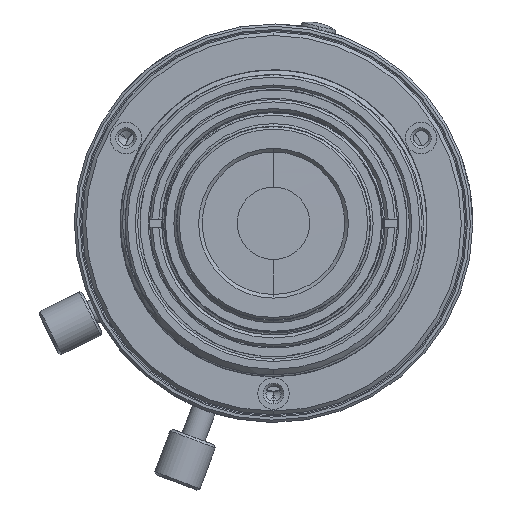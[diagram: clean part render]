
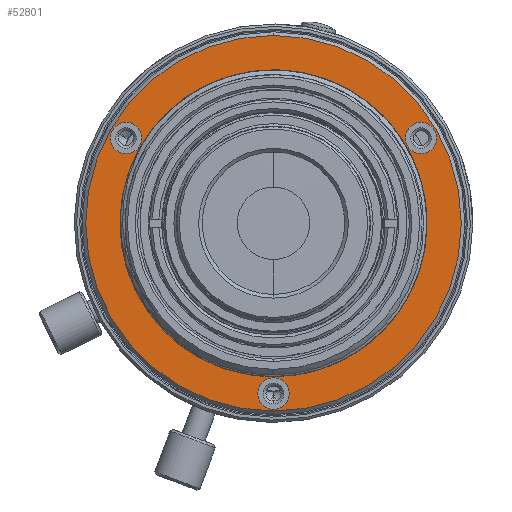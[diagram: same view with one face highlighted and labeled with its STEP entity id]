
A CAD part, front view. The second image highlights one B-rep face of the part: STEP entity #52801.
In plain terms, the highlighted planar face has unit normal (0, -1, 0).
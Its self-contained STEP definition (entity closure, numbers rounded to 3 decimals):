
#51463=CARTESIAN_POINT('',(0.,-2.674,0.));
#51464=DIRECTION('',(0.,1.,0.));
#51465=DIRECTION('',(0.,0.,-1.));
#51466=AXIS2_PLACEMENT_3D('',#51463,#51464,#51465);
#51468=CARTESIAN_POINT('',(0.,-2.674,0.));
#51469=DIRECTION('',(0.,-1.,0.));
#51470=DIRECTION('',(0.,0.,-1.));
#51471=AXIS2_PLACEMENT_3D('',#51468,#51469,#51470);
#51473=CARTESIAN_POINT('',(0.,-2.674,0.));
#51474=DIRECTION('',(0.,1.,0.));
#51475=DIRECTION('',(0.,0.,-1.));
#51476=AXIS2_PLACEMENT_3D('',#51473,#51474,#51475);
#51478=CARTESIAN_POINT('',(0.,-2.674,0.));
#51479=DIRECTION('',(0.,1.,0.));
#51480=DIRECTION('',(0.,0.,1.));
#51481=AXIS2_PLACEMENT_3D('',#51478,#51479,#51480);
#51483=CARTESIAN_POINT('',(0.,-2.674,-14.1));
#51484=DIRECTION('',(0.,-1.,0.));
#51485=DIRECTION('',(0.,0.,-1.));
#51486=AXIS2_PLACEMENT_3D('',#51483,#51484,#51485);
#51488=CARTESIAN_POINT('',(0.,-2.674,-14.1));
#51489=DIRECTION('',(0.,-1.,0.));
#51490=DIRECTION('',(0.,0.,1.));
#51491=AXIS2_PLACEMENT_3D('',#51488,#51489,#51490);
#51493=CARTESIAN_POINT('',(12.211,-2.674,7.05));
#51494=DIRECTION('',(0.,-1.,0.));
#51495=DIRECTION('',(0.866,0.,0.5));
#51496=AXIS2_PLACEMENT_3D('',#51493,#51494,#51495);
#51498=CARTESIAN_POINT('',(12.211,-2.674,7.05));
#51499=DIRECTION('',(0.,-1.,0.));
#51500=DIRECTION('',(-0.866,0.,-0.5));
#51501=AXIS2_PLACEMENT_3D('',#51498,#51499,#51500);
#51503=CARTESIAN_POINT('',(-12.211,-2.674,7.05));
#51504=DIRECTION('',(0.,-1.,0.));
#51505=DIRECTION('',(-0.866,0.,0.5));
#51506=AXIS2_PLACEMENT_3D('',#51503,#51504,#51505);
#51508=CARTESIAN_POINT('',(-12.211,-2.674,7.05));
#51509=DIRECTION('',(0.,-1.,0.));
#51510=DIRECTION('',(0.866,0.,-0.5));
#51511=AXIS2_PLACEMENT_3D('',#51508,#51509,#51510);
#52547=CARTESIAN_POINT('',(0.,-2.674,-12.1));
#52548=CARTESIAN_POINT('',(0.,-2.674,12.1));
#52549=VERTEX_POINT('',#52547);
#52550=VERTEX_POINT('',#52548);
#52555=CARTESIAN_POINT('',(0.,-2.674,-15.55));
#52556=CARTESIAN_POINT('',(0.,-2.674,15.55));
#52557=VERTEX_POINT('',#52555);
#52558=VERTEX_POINT('',#52556);
#52595=CARTESIAN_POINT('',(0.,-2.674,-15.4));
#52596=CARTESIAN_POINT('',(0.,-2.674,-12.8));
#52597=VERTEX_POINT('',#52595);
#52598=VERTEX_POINT('',#52596);
#52611=CARTESIAN_POINT('',(13.337,-2.674,7.7));
#52612=CARTESIAN_POINT('',(11.085,-2.674,6.4));
#52613=VERTEX_POINT('',#52611);
#52614=VERTEX_POINT('',#52612);
#52627=CARTESIAN_POINT('',(-13.337,-2.674,7.7));
#52628=CARTESIAN_POINT('',(-11.085,-2.674,6.4));
#52629=VERTEX_POINT('',#52627);
#52630=VERTEX_POINT('',#52628);
#52768=CARTESIAN_POINT('',(0.,-2.674,0.));
#52769=DIRECTION('',(0.,-1.,0.));
#52770=DIRECTION('',(0.,0.,1.));
#52771=AXIS2_PLACEMENT_3D('',#52768,#52769,#52770);
#52772=PLANE('',#52771);
#52773=ORIENTED_EDGE('',*,*,#52748,.T.);
#52774=ORIENTED_EDGE('',*,*,#52762,.T.);
#52775=EDGE_LOOP('',(#52773,#52774));
#52776=FACE_OUTER_BOUND('',#52775,.F.);
#52778=ORIENTED_EDGE('',*,*,#52777,.F.);
#52780=ORIENTED_EDGE('',*,*,#52779,.T.);
#52781=EDGE_LOOP('',(#52778,#52780));
#52782=FACE_BOUND('',#52781,.F.);
#52784=ORIENTED_EDGE('',*,*,#52783,.T.);
#52786=ORIENTED_EDGE('',*,*,#52785,.T.);
#52787=EDGE_LOOP('',(#52784,#52786));
#52788=FACE_BOUND('',#52787,.F.);
#52790=ORIENTED_EDGE('',*,*,#52789,.T.);
#52792=ORIENTED_EDGE('',*,*,#52791,.T.);
#52793=EDGE_LOOP('',(#52790,#52792));
#52794=FACE_BOUND('',#52793,.F.);
#52796=ORIENTED_EDGE('',*,*,#52795,.T.);
#52798=ORIENTED_EDGE('',*,*,#52797,.T.);
#52799=EDGE_LOOP('',(#52796,#52798));
#52800=FACE_BOUND('',#52799,.F.);
#52801=ADVANCED_FACE('',(#52776,#52782,#52788,#52794,#52800),#52772,.T.);
#51467=CIRCLE('',#51466,12.1);
#51472=CIRCLE('',#51471,12.1);
#51477=CIRCLE('',#51476,15.55);
#51482=CIRCLE('',#51481,15.55);
#51487=CIRCLE('',#51486,1.3);
#51492=CIRCLE('',#51491,1.3);
#51497=CIRCLE('',#51496,1.3);
#51502=CIRCLE('',#51501,1.3);
#51507=CIRCLE('',#51506,1.3);
#51512=CIRCLE('',#51511,1.3);
#52748=EDGE_CURVE('',#52557,#52558,#51477,.T.);
#52762=EDGE_CURVE('',#52558,#52557,#51482,.T.);
#52777=EDGE_CURVE('',#52549,#52550,#51467,.T.);
#52779=EDGE_CURVE('',#52549,#52550,#51472,.T.);
#52783=EDGE_CURVE('',#52597,#52598,#51487,.T.);
#52785=EDGE_CURVE('',#52598,#52597,#51492,.T.);
#52789=EDGE_CURVE('',#52613,#52614,#51497,.T.);
#52791=EDGE_CURVE('',#52614,#52613,#51502,.T.);
#52795=EDGE_CURVE('',#52629,#52630,#51507,.T.);
#52797=EDGE_CURVE('',#52630,#52629,#51512,.T.);
